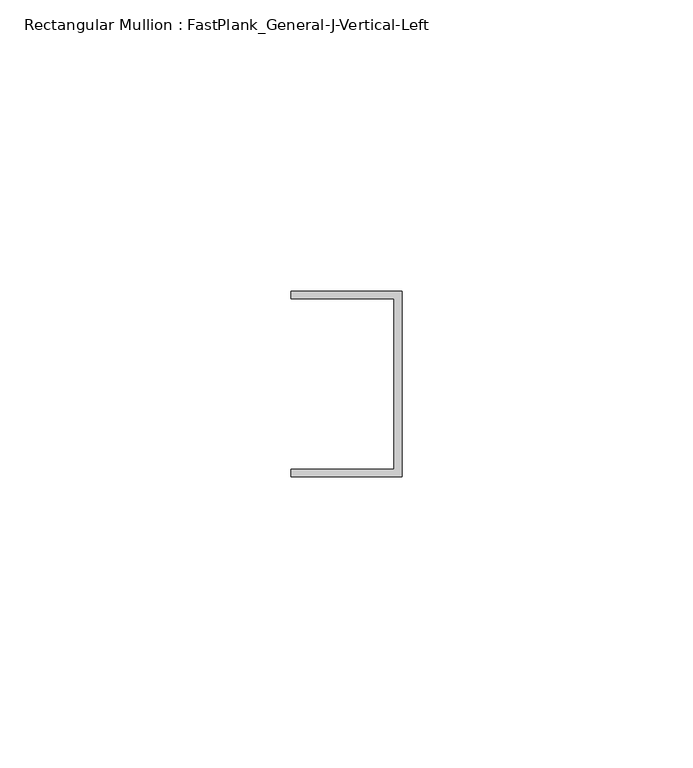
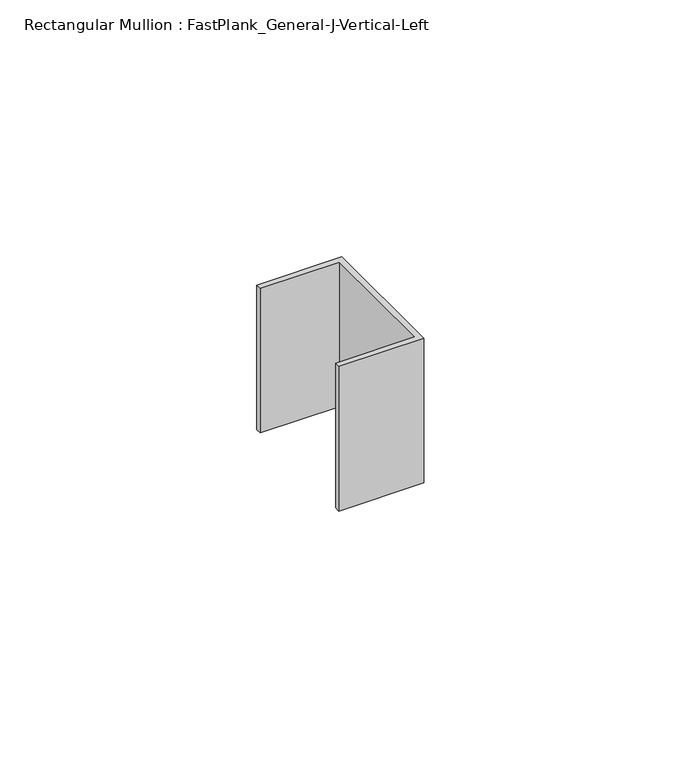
"""IFC4 building model written with IfcOpenShell, lengths in millimetres: member geometry, Rectangular Mullion : FastPlank_General-J-Vertical-Left."""

import ifcopenshell
import ifcopenshell.guid

model = None  # the IFC model being written
_history = None  # IfcOwnerHistory: only IFC2X3 demands one
_inside = {}  # id of a spatial element -> (the spatial element, [elements in it])
_under = {}  # id of a project, library or spatial element -> (it, [spatial elements below it])
_declared = {}  # id of a project -> (the project, [libraries it declares])
_typed = {}  # id of a type object -> (the type object, [elements of that type])
_made_of = {}  # id of a material, layer set ... -> (it, [elements and type objects made of it])


def new_model(schema):
    """Start an empty IFC model of exactly this schema.

    Asked for "IFC4X3", IfcOpenShell would pick the latest addendum, in which some entities
    have other attributes; the version numbers below select the first issue.
    IFC2X3 requires an IfcOwnerHistory on every rooted entity: one is made here for all.
    """
    global model, _history
    if schema == "IFC4X3":
        model = ifcopenshell.file(schema_version=(4, 3, 0, 0))
    else:
        model = ifcopenshell.file(schema=schema)
    _inside.clear()
    _under.clear()
    _declared.clear()
    _typed.clear()
    _made_of.clear()
    _history = None
    if model.schema == "IFC2X3":
        org = make("IfcOrganization", Name="unknown")
        user = make(
            "IfcPersonAndOrganization",
            ThePerson=make("IfcPerson", FamilyName="unknown"),
            TheOrganization=org,
        )
        app = make(
            "IfcApplication",
            ApplicationDeveloper=org,
            Version="unknown",
            ApplicationFullName="unknown",
            ApplicationIdentifier="unknown",
        )
        _history = make(
            "IfcOwnerHistory",
            OwningUser=user,
            OwningApplication=app,
            ChangeAction="ADDED",
            CreationDate=0,
        )
    return model


def make(cls, **values):
    """One entity of the class cls with the attributes given. An attribute that is None is left unset."""
    return model.create_entity(
        cls, **{name: value for name, value in values.items() if value is not None}
    )


def rooted(cls, **values):
    """An entity with a GlobalId (a new one), such as an element, a storey or a relation."""
    return make(cls, GlobalId=ifcopenshell.guid.new(), OwnerHistory=_history, **values)


def si_unit(unit_type, name, prefix=None):
    """IfcSIUnit, for example si_unit("LENGTHUNIT", "METRE", prefix="MILLI")."""
    return make("IfcSIUnit", UnitType=unit_type, Prefix=prefix, Name=name)


def assignment(units):
    """IfcUnitAssignment: the units of a project."""
    return None if units is None else make("IfcUnitAssignment", Units=units)


def point(xyz):
    """IfcCartesianPoint."""
    return None if xyz is None else make("IfcCartesianPoint", Coordinates=xyz)


def direction(xyz):
    """IfcDirection."""
    return None if xyz is None else make("IfcDirection", DirectionRatios=xyz)


def frame(location, z_axis=None, x_axis=None):
    """IfcAxis2Placement3D, a coordinate frame: its origin and axes. An axis left out is left unset."""
    return make(
        "IfcAxis2Placement3D",
        Location=point(location),
        Axis=direction(z_axis),
        RefDirection=direction(x_axis),
    )


def origin():
    """The frame at (0, 0, 0) with its axes left unset."""
    return frame((0.0, 0.0, 0.0))


def place(relative_to, where):
    """IfcLocalPlacement: puts the frame where relative to a parent placement (None: the world)."""
    return make(
        "IfcLocalPlacement", PlacementRelTo=relative_to, RelativePlacement=where
    )


def context(
    kind, dimensions, precision=None, world=None, true_north=None, identifier=None
):
    """IfcGeometricRepresentationContext, for example the 3D "Model" context."""
    return make(
        "IfcGeometricRepresentationContext",
        ContextIdentifier=identifier,
        ContextType=kind,
        CoordinateSpaceDimension=dimensions,
        Precision=precision,
        WorldCoordinateSystem=world,
        TrueNorth=true_north,
    )


def project(units=None, contexts=None):
    """IfcProject with its units and contexts."""
    return rooted(
        "IfcProject",
        Name="project",
        RepresentationContexts=contexts,
        UnitsInContext=assignment(units),
    )


def spatial(cls, under=None, at=None, **own):
    """A site, building, storey or space (cls), placed at a placement, below another one or the project."""
    s = rooted(cls, ObjectPlacement=at, **own)
    if under is not None:
        _under.setdefault(under.id(), (under, []))[1].append(s)
    return s


def polyline(points):
    """IfcPolyline through the points."""
    return make("IfcPolyline", Points=[point(p) for p in points])


def outline(outer, holes=None, kind="AREA"):
    """IfcArbitraryClosedProfileDef: a profile drawn as a closed curve; with holes, ...WithVoids."""
    if holes is None:
        return make("IfcArbitraryClosedProfileDef", ProfileType=kind, OuterCurve=outer)
    return make(
        "IfcArbitraryProfileDefWithVoids",
        ProfileType=kind,
        OuterCurve=outer,
        InnerCurves=holes,
    )


def extrude(swept, where, along, depth):
    """IfcExtrudedAreaSolid: the profile swept, set in the frame where, extruded along a direction by depth."""
    return make(
        "IfcExtrudedAreaSolid",
        SweptArea=swept,
        Position=where,
        ExtrudedDirection=direction(along),
        Depth=depth,
    )


def shape(context_of_items, identifier, shape_type, items):
    """IfcShapeRepresentation: the items that make up one representation, for example the "Body"."""
    return make(
        "IfcShapeRepresentation",
        ContextOfItems=context_of_items,
        RepresentationIdentifier=identifier,
        RepresentationType=shape_type,
        Items=items,
    )


def source(mapping_origin, context_of_items, identifier, shape_type, items):
    """IfcRepresentationMap: a shape defined once, which mapped items show again and again."""
    return make(
        "IfcRepresentationMap",
        MappingOrigin=mapping_origin,
        MappedRepresentation=shape(context_of_items, identifier, shape_type, items),
    )


def transform(
    local_origin,
    x_axis=None,
    y_axis=None,
    z_axis=None,
    scale=None,
    scale2=None,
    scale3=None,
    uniform=True,
):
    """IfcCartesianTransformationOperator3D, or its non-uniform kind. x_axis, y_axis, z_axis: its Axis1, 2, 3."""
    if uniform:
        return make(
            "IfcCartesianTransformationOperator3D",
            Axis1=direction(x_axis),
            Axis2=direction(y_axis),
            LocalOrigin=point(local_origin),
            Scale=scale,
            Axis3=direction(z_axis),
        )
    return make(
        "IfcCartesianTransformationOperator3DnonUniform",
        Axis1=direction(x_axis),
        Axis2=direction(y_axis),
        LocalOrigin=point(local_origin),
        Scale=scale,
        Axis3=direction(z_axis),
        Scale2=scale2,
        Scale3=scale3,
    )


def mapped(mapping_source, mapping_target):
    """IfcMappedItem: shows the shape of a source again, moved by a transform."""
    return make(
        "IfcMappedItem", MappingSource=mapping_source, MappingTarget=mapping_target
    )


def made_of(thing, what):
    """Note that an element or type object is made of a material, layer set ...; save() writes the relation."""
    if what is not None:
        _made_of.setdefault(what.id(), (what, []))[1].append(thing)
    return thing


def element(
    cls,
    number,
    at=None,
    inside=None,
    cuts=None,
    type_object=None,
    material=None,
    context=None,
    identifier="Body",
    shape_type=None,
    held_by="IfcProductDefinitionShape",
    body=None,
    shapes=None,
    **own,
):
    """One element of the class cls, such as IfcWall. Its Tag is "e" and its number.

    at: its placement. inside: the storey or other place that contains it. cuts: it is an
    opening in that element (IfcRelVoidsElement). A single representation is given by context,
    identifier, shape_type and body (its items); several are given by shapes. held_by: the class
    of the entity that holds the representations. save() writes the other relations.
    """
    e = rooted(cls, Tag="e%d" % number, ObjectPlacement=at, **own)
    if body is not None:
        shapes = [shape(context, identifier, shape_type, body)]
    if shapes is not None:
        e.Representation = make(held_by, Representations=shapes)
    if inside is not None:
        _inside.setdefault(inside.id(), (inside, []))[1].append(e)
    if cuts is not None:
        rooted(
            "IfcRelVoidsElement", RelatingBuildingElement=cuts, RelatedOpeningElement=e
        )
    if type_object is not None:
        _typed.setdefault(type_object.id(), (type_object, []))[1].append(e)
    return made_of(e, material)


def aggregate(whole, parts):
    """IfcRelAggregates: a whole, such as a stair, and the parts it consists of."""
    return rooted("IfcRelAggregates", RelatingObject=whole, RelatedObjects=parts)


def save(model, path):
    """Write the relations noted so far, then the file.

    IfcRelAggregates (storeys below a building ...), IfcRelContainedInSpatialStructure (elements
    in a storey), IfcRelDefinesByType, IfcRelAssociatesMaterial and IfcRelDeclares: one each for
    every whole, place, type object, material and project.
    """
    for whole, parts in _under.values():
        aggregate(whole, parts)
    for where, things in _inside.values():
        rooted(
            "IfcRelContainedInSpatialStructure",
            RelatedElements=things,
            RelatingStructure=where,
        )
    for kind, things in _typed.values():
        rooted("IfcRelDefinesByType", RelatedObjects=things, RelatingType=kind)
    for what, things in _made_of.values():
        rooted("IfcRelAssociatesMaterial", RelatedObjects=things, RelatingMaterial=what)
    for by, libraries in _declared.values():
        rooted("IfcRelDeclares", RelatingContext=by, RelatedDefinitions=libraries)
    model.write(path)


def rectangular_mullion_fastplank_general_j_vertical_left_9ba2d4fe(model_context):
    return source(origin(), model_context, "Body", "SweptSolid", [
        extrude(outline(polyline([(0.0, 10.2620691), (0.0, -21.6412691), (-19.05, -21.6412691), (-19.05, -20.3412717), (-1.3000189, -20.3412717), (-1.3000189, 8.9620717), (-19.05, 8.9620717), (-19.05, 10.2620691), (0.0, 10.2620691)])), frame((0.0, 0.0, -34.3582912), z_axis=(0.0, 0.0, 1.0), x_axis=(1.0, 0.0, 0.0)), (0.0, 0.0, 1.0), 34.3582912),
    ])


if __name__ == "__main__":
    model = new_model("IFC4")
    model_context = context("Model", 3, world=origin())
    ifc_project = project(units=[si_unit("LENGTHUNIT", "METRE", prefix="MILLI")], contexts=[model_context])
    site = spatial("IfcSite", under=ifc_project)
    building = spatial("IfcBuilding", under=site)
    placement = place(None, origin())
    rectangular_mullion_fastplank_general_j_vertical_left_shape = rectangular_mullion_fastplank_general_j_vertical_left_9ba2d4fe(model_context)
    element("IfcMember", 1, ObjectType="Rectangular Mullion : FastPlank_General-J-Vertical-Left", at=placement, inside=building, context=model_context, shape_type="MappedRepresentation", body=[
        mapped(rectangular_mullion_fastplank_general_j_vertical_left_shape, transform((0.0, 0.0, 0.0), x_axis=(1.0, 0.0, 0.0), y_axis=(0.0, 1.0, 0.0), z_axis=(0.0, 0.0, 1.0))),
    ])
    save(model, "model.ifc")
